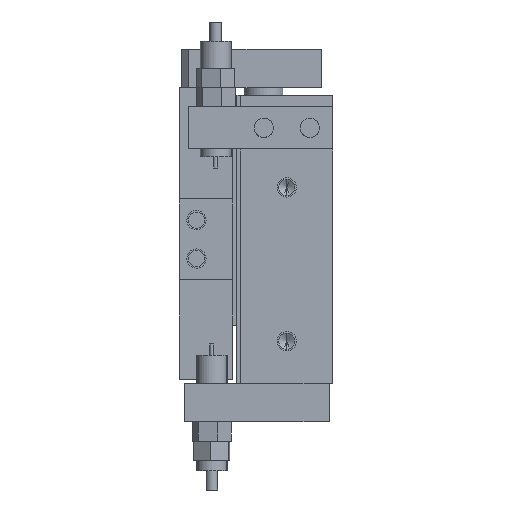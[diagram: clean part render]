
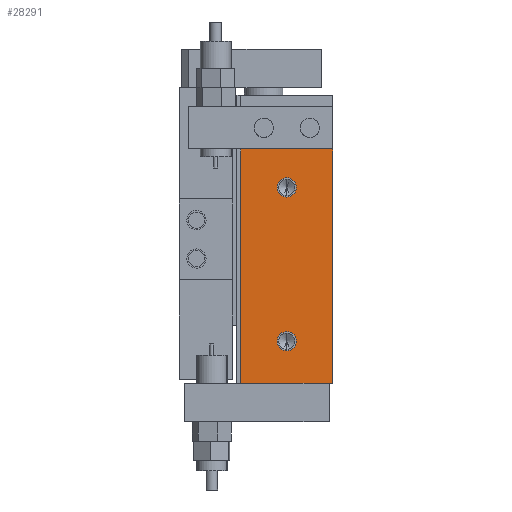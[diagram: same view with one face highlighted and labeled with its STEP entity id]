
A CAD part, left-side view. The second image highlights one B-rep face of the part: STEP entity #28291.
In plain terms, the highlighted planar face has unit normal (-1, 0, 0) as drawn and (1, 0, 0) by its records, which use the part's own axes.
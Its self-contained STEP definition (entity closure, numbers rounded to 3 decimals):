
#1717 = VERTEX_POINT ( 'NONE', #20937 ) ;
#1740 = EDGE_CURVE ( 'NONE', #27901, #1717, #20960, .T. ) ;
#4806 = AXIS2_PLACEMENT_3D ( 'NONE', #4818, #4817, #4809 ) ;
#4809 = DIRECTION ( 'NONE',  ( 0., 0., -1. ) ) ;
#4817 = DIRECTION ( 'NONE',  ( 1., 0., 0. ) ) ;
#4818 = CARTESIAN_POINT ( 'NONE',  ( 62., 9., 24. ) ) ;
#4821 = CIRCLE ( 'NONE', #4806, 2.5 ) ;
#5434 = CARTESIAN_POINT ( 'NONE',  ( 62., 9., 66.5 ) ) ;
#5476 = CARTESIAN_POINT ( 'NONE',  ( 62., 9., 61.5 ) ) ;
#5550 = DIRECTION ( 'NONE',  ( 0., 0., -1. ) ) ;
#5551 = DIRECTION ( 'NONE',  ( 1., 0., 0. ) ) ;
#5552 = AXIS2_PLACEMENT_3D ( 'NONE', #5570, #5551, #5550 ) ;
#5567 = CIRCLE ( 'NONE', #5552, 2.5 ) ;
#5570 = CARTESIAN_POINT ( 'NONE',  ( 62., 9., 64. ) ) ;
#5618 = CARTESIAN_POINT ( 'NONE',  ( 62., 9., 21.5 ) ) ;
#5621 = CARTESIAN_POINT ( 'NONE',  ( 62., 9., 26.5 ) ) ;
#5731 = CARTESIAN_POINT ( 'NONE',  ( 62., -3., 75. ) ) ;
#5863 = DIRECTION ( 'NONE',  ( 0., 0., -1. ) ) ;
#5864 = VECTOR ( 'NONE', #5863, 1000. ) ;
#5867 = CARTESIAN_POINT ( 'NONE',  ( 62., -3., 75. ) ) ;
#5877 = LINE ( 'NONE', #5867, #5864 ) ;
#5899 = DIRECTION ( 'NONE',  ( 0., 1., 0. ) ) ;
#5900 = VECTOR ( 'NONE', #5899, 1000. ) ;
#5902 = CARTESIAN_POINT ( 'NONE',  ( 62., -3., 14. ) ) ;
#5903 = LINE ( 'NONE', #5902, #5900 ) ;
#5913 = CARTESIAN_POINT ( 'NONE',  ( 62., -3., 14. ) ) ;
#5927 = LINE ( 'NONE', #5958, #5957 ) ;
#5929 = CARTESIAN_POINT ( 'NONE',  ( 62., 21., 14. ) ) ;
#5955 = FACE_OUTER_BOUND ( 'NONE', #28280, .T. ) ;
#5956 = DIRECTION ( 'NONE',  ( 0., 0., -1. ) ) ;
#5957 = VECTOR ( 'NONE', #5956, 1000. ) ;
#5958 = CARTESIAN_POINT ( 'NONE',  ( 62., 21., 75. ) ) ;
#5962 = FACE_BOUND ( 'NONE', #28290, .T. ) ;
#5966 = CIRCLE ( 'NONE', #6018, 2.5 ) ;
#5967 = CIRCLE ( 'NONE', #6014, 2.5 ) ;
#5973 = CARTESIAN_POINT ( 'NONE',  ( 62., 9., 24. ) ) ;
#5988 = DIRECTION ( 'NONE',  ( 0., 0., 1. ) ) ;
#5989 = DIRECTION ( 'NONE',  ( -1., 0., 0. ) ) ;
#5993 = PLANE ( 'NONE',  #5999 ) ;
#5995 = FACE_BOUND ( 'NONE', #28300, .T. ) ;
#5999 = AXIS2_PLACEMENT_3D ( 'NONE', #6008, #5989, #5988 ) ;
#6005 = DIRECTION ( 'NONE',  ( 0., 0., -1. ) ) ;
#6006 = DIRECTION ( 'NONE',  ( 1., 0., 0. ) ) ;
#6008 = CARTESIAN_POINT ( 'NONE',  ( 62., -3., 75. ) ) ;
#6014 = AXIS2_PLACEMENT_3D ( 'NONE', #5973, #6006, #6005 ) ;
#6015 = DIRECTION ( 'NONE',  ( 0., 0., -1. ) ) ;
#6016 = DIRECTION ( 'NONE',  ( 1., 0., 0. ) ) ;
#6017 = CARTESIAN_POINT ( 'NONE',  ( 62., 9., 64. ) ) ;
#6018 = AXIS2_PLACEMENT_3D ( 'NONE', #6017, #6016, #6015 ) ;
#20937 = CARTESIAN_POINT ( 'NONE',  ( 62., 21., 75. ) ) ;
#20956 = DIRECTION ( 'NONE',  ( 0., 1., 0. ) ) ;
#20957 = VECTOR ( 'NONE', #20956, 1000. ) ;
#20959 = CARTESIAN_POINT ( 'NONE',  ( 62., -3., 75. ) ) ;
#20960 = LINE ( 'NONE', #20959, #20957 ) ;
#27659 = VERTEX_POINT ( 'NONE', #5434 ) ;
#27678 = VERTEX_POINT ( 'NONE', #5476 ) ;
#27778 = EDGE_CURVE ( 'NONE', #27659, #27678, #5567, .T. ) ;
#27813 = EDGE_CURVE ( 'NONE', #27833, #27832, #4821, .T. ) ;
#27832 = VERTEX_POINT ( 'NONE', #5618 ) ;
#27833 = VERTEX_POINT ( 'NONE', #5621 ) ;
#27901 = VERTEX_POINT ( 'NONE', #5731 ) ;
#28200 = EDGE_CURVE ( 'NONE', #27901, #28205, #5877, .T. ) ;
#28205 = VERTEX_POINT ( 'NONE', #5913 ) ;
#28221 = EDGE_CURVE ( 'NONE', #28205, #28258, #5903, .T. ) ;
#28258 = VERTEX_POINT ( 'NONE', #5929 ) ;
#28267 = ORIENTED_EDGE ( 'NONE', *, *, #28284, .F. ) ;
#28273 = ORIENTED_EDGE ( 'NONE', *, *, #28281, .F. ) ;
#28276 = EDGE_CURVE ( 'NONE', #1717, #28258, #5927, .T. ) ;
#28280 = EDGE_LOOP ( 'NONE', ( #28304, #28295, #28287, #28298 ) ) ;
#28281 = EDGE_CURVE ( 'NONE', #27678, #27659, #5966, .T. ) ;
#28284 = EDGE_CURVE ( 'NONE', #27832, #27833, #5967, .T. ) ;
#28287 = ORIENTED_EDGE ( 'NONE', *, *, #1740, .F. ) ;
#28288 = ORIENTED_EDGE ( 'NONE', *, *, #27813, .F. ) ;
#28290 = EDGE_LOOP ( 'NONE', ( #28267, #28288 ) ) ;
#28291 = ADVANCED_FACE ( 'NONE', ( #5995, #5962, #5955 ), #5993, .F. ) ;
#28295 = ORIENTED_EDGE ( 'NONE', *, *, #28276, .F. ) ;
#28298 = ORIENTED_EDGE ( 'NONE', *, *, #28200, .T. ) ;
#28300 = EDGE_LOOP ( 'NONE', ( #28273, #28302 ) ) ;
#28302 = ORIENTED_EDGE ( 'NONE', *, *, #27778, .F. ) ;
#28304 = ORIENTED_EDGE ( 'NONE', *, *, #28221, .T. ) ;
